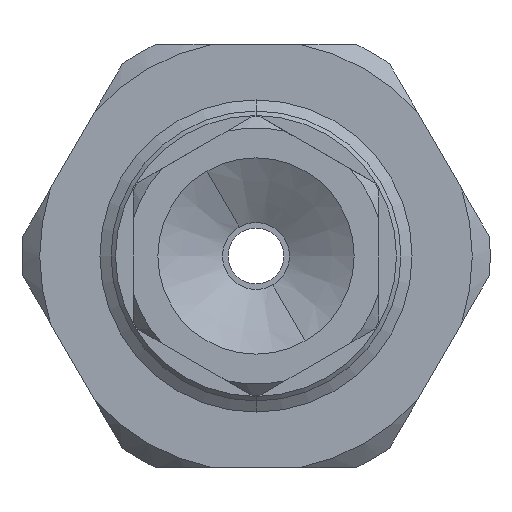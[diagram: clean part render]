
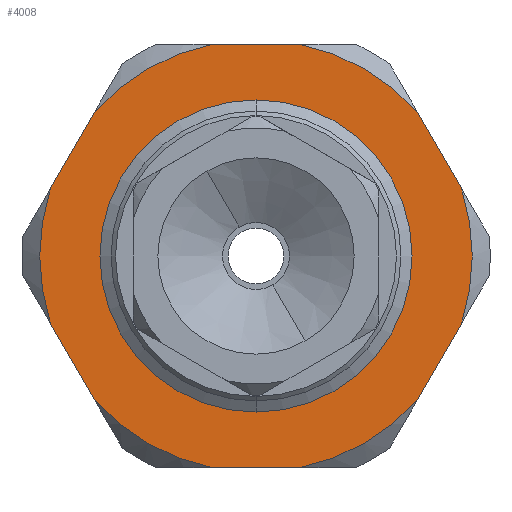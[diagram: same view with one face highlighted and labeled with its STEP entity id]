
A CAD part, front view. The second image highlights one B-rep face of the part: STEP entity #4008.
In plain terms, the highlighted planar face has unit normal (0, -1, 0).
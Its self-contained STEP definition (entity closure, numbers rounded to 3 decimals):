
#565 = CARTESIAN_POINT ( 'NONE',  ( -15.384, -4.677, 60. ) ) ;
#702 = VERTEX_POINT ( 'NONE', #2849 ) ;
#709 = AXIS2_PLACEMENT_3D ( 'NONE', #17434, #6607, #19222 ) ;
#763 = CIRCLE ( 'NONE', #19589, 6.25 ) ;
#968 = CARTESIAN_POINT ( 'NONE',  ( -6.177, -4.677, 56.947 ) ) ;
#1301 = ORIENTED_EDGE ( 'NONE', *, *, #4425, .T. ) ;
#1603 = CARTESIAN_POINT ( 'NONE',  ( -17.343, -4.677, 50.5 ) ) ;
#1724 = VERTEX_POINT ( 'NONE', #17709 ) ;
#1902 = LINE ( 'NONE', #8500, #6173 ) ;
#2000 = VECTOR ( 'NONE', #20996, 1000. ) ;
#2269 = VERTEX_POINT ( 'NONE', #17349 ) ;
#2386 = DIRECTION ( 'NONE',  ( 0., 0., 1. ) ) ;
#2493 = LINE ( 'NONE', #15686, #20558 ) ;
#2577 = CARTESIAN_POINT ( 'NONE',  ( -13.424, -4.677, 50.5 ) ) ;
#2689 = DIRECTION ( 'NONE',  ( 0., -1., 0. ) ) ;
#2849 = CARTESIAN_POINT ( 'NONE',  ( -6.177, -4.677, 63.053 ) ) ;
#2910 = CIRCLE ( 'NONE', #11482, 9.7 ) ;
#2928 = CIRCLE ( 'NONE', #17511, 9.7 ) ;
#3231 = ORIENTED_EDGE ( 'NONE', *, *, #10302, .T. ) ;
#3415 = EDGE_CURVE ( 'NONE', #10879, #17289, #14351, .T. ) ;
#4008 = ADVANCED_FACE ( 'NONE', ( #5549, #15664 ), #20671, .F. ) ;
#4111 = DIRECTION ( 'NONE',  ( -0.5, 0., 0.866 ) ) ;
#4425 = EDGE_CURVE ( 'NONE', #17394, #2269, #2910, .T. ) ;
#4719 = AXIS2_PLACEMENT_3D ( 'NONE', #565, #13194, #2386 ) ;
#4782 = ORIENTED_EDGE ( 'NONE', *, *, #11827, .T. ) ;
#5289 = VERTEX_POINT ( 'NONE', #1603 ) ;
#5347 = DIRECTION ( 'NONE',  ( 0., 1., 0. ) ) ;
#5549 = FACE_BOUND ( 'NONE', #16045, .T. ) ;
#5581 = CARTESIAN_POINT ( 'NONE',  ( -17.343, -4.677, 69.5 ) ) ;
#5843 = VERTEX_POINT ( 'NONE', #5581 ) ;
#5863 = ORIENTED_EDGE ( 'NONE', *, *, #12889, .T. ) ;
#5933 = CARTESIAN_POINT ( 'NONE',  ( -15.384, -4.677, 60. ) ) ;
#6046 = CARTESIAN_POINT ( 'NONE',  ( -24.591, -4.677, 63.053 ) ) ;
#6068 = EDGE_CURVE ( 'NONE', #17289, #20600, #20656, .T. ) ;
#6173 = VECTOR ( 'NONE', #21155, 1000. ) ;
#6508 = ORIENTED_EDGE ( 'NONE', *, *, #15002, .T. ) ;
#6607 = DIRECTION ( 'NONE',  ( 0., 1., 0. ) ) ;
#6820 = CARTESIAN_POINT ( 'NONE',  ( -15.384, -4.677, 53.75 ) ) ;
#6925 = DIRECTION ( 'NONE',  ( 1., 0., 0. ) ) ;
#7290 = DIRECTION ( 'NONE',  ( 0., 1., 0. ) ) ;
#7718 = DIRECTION ( 'NONE',  ( 0., 0., 1. ) ) ;
#8042 = ORIENTED_EDGE ( 'NONE', *, *, #3415, .T. ) ;
#8475 = VERTEX_POINT ( 'NONE', #20722 ) ;
#8500 = CARTESIAN_POINT ( 'NONE',  ( -23.611, -4.677, 55.25 ) ) ;
#8529 = DIRECTION ( 'NONE',  ( 0., -1., 0. ) ) ;
#8583 = DIRECTION ( 'NONE',  ( -0.5, 0., -0.866 ) ) ;
#9102 = CIRCLE ( 'NONE', #21030, 9.7 ) ;
#9556 = EDGE_CURVE ( 'NONE', #20600, #702, #9102, .T. ) ;
#9613 = CARTESIAN_POINT ( 'NONE',  ( -15.384, -4.677, 60. ) ) ;
#9752 = ORIENTED_EDGE ( 'NONE', *, *, #19070, .T. ) ;
#9922 = ORIENTED_EDGE ( 'NONE', *, *, #23365, .T. ) ;
#10184 = CARTESIAN_POINT ( 'NONE',  ( -7.156, -4.677, 55.25 ) ) ;
#10255 = DIRECTION ( 'NONE',  ( -1., 0., 0. ) ) ;
#10286 = DIRECTION ( 'NONE',  ( 0., -1., 0. ) ) ;
#10302 = EDGE_CURVE ( 'NONE', #20512, #5843, #2493, .T. ) ;
#10314 = EDGE_CURVE ( 'NONE', #2269, #12543, #1902, .T. ) ;
#10879 = VERTEX_POINT ( 'NONE', #2577 ) ;
#11418 = DIRECTION ( 'NONE',  ( 0., 0., 1. ) ) ;
#11482 = AXIS2_PLACEMENT_3D ( 'NONE', #13484, #2689, #15314 ) ;
#11810 = CARTESIAN_POINT ( 'NONE',  ( -22.631, -4.677, 53.553 ) ) ;
#11827 = EDGE_CURVE ( 'NONE', #702, #1724, #21933, .T. ) ;
#12230 = CARTESIAN_POINT ( 'NONE',  ( -23.611, -4.677, 64.75 ) ) ;
#12285 = VECTOR ( 'NONE', #4111, 1000. ) ;
#12470 = VERTEX_POINT ( 'NONE', #18895 ) ;
#12543 = VERTEX_POINT ( 'NONE', #11810 ) ;
#12552 = EDGE_LOOP ( 'NONE', ( #14798, #14167, #4782, #5863, #3231, #6508, #18122, #1301, #19540, #21707, #13491, #8042 ) ) ;
#12668 = AXIS2_PLACEMENT_3D ( 'NONE', #21104, #10286, #22943 ) ;
#12679 = VERTEX_POINT ( 'NONE', #6820 ) ;
#12889 = EDGE_CURVE ( 'NONE', #1724, #20512, #23294, .T. ) ;
#13194 = DIRECTION ( 'NONE',  ( 0., -1., 0. ) ) ;
#13484 = CARTESIAN_POINT ( 'NONE',  ( -15.384, -4.677, 60. ) ) ;
#13491 = ORIENTED_EDGE ( 'NONE', *, *, #18496, .T. ) ;
#14167 = ORIENTED_EDGE ( 'NONE', *, *, #9556, .T. ) ;
#14351 = CIRCLE ( 'NONE', #22803, 9.7 ) ;
#14798 = ORIENTED_EDGE ( 'NONE', *, *, #6068, .T. ) ;
#15002 = EDGE_CURVE ( 'NONE', #5843, #8475, #21573, .T. ) ;
#15025 = EDGE_CURVE ( 'NONE', #12543, #5289, #2928, .T. ) ;
#15119 = CARTESIAN_POINT ( 'NONE',  ( -13.424, -4.677, 69.5 ) ) ;
#15314 = DIRECTION ( 'NONE',  ( 0., 0., 1. ) ) ;
#15664 = FACE_OUTER_BOUND ( 'NONE', #12552, .T. ) ;
#15686 = CARTESIAN_POINT ( 'NONE',  ( -15.384, -4.677, 69.5 ) ) ;
#15850 = CIRCLE ( 'NONE', #22254, 6.25 ) ;
#16045 = EDGE_LOOP ( 'NONE', ( #9752, #9922 ) ) ;
#16080 = EDGE_CURVE ( 'NONE', #8475, #17394, #21231, .T. ) ;
#16131 = CARTESIAN_POINT ( 'NONE',  ( -15.384, -4.677, 60. ) ) ;
#17289 = VERTEX_POINT ( 'NONE', #21924 ) ;
#17349 = CARTESIAN_POINT ( 'NONE',  ( -24.591, -4.677, 56.947 ) ) ;
#17394 = VERTEX_POINT ( 'NONE', #6046 ) ;
#17434 = CARTESIAN_POINT ( 'NONE',  ( -15.384, -4.677, 60. ) ) ;
#17511 = AXIS2_PLACEMENT_3D ( 'NONE', #19349, #8529, #21183 ) ;
#17571 = LINE ( 'NONE', #21378, #21824 ) ;
#17709 = CARTESIAN_POINT ( 'NONE',  ( -8.136, -4.677, 66.447 ) ) ;
#17930 = DIRECTION ( 'NONE',  ( 0., 0., 1. ) ) ;
#18075 = CARTESIAN_POINT ( 'NONE',  ( -15.384, -4.677, 60. ) ) ;
#18122 = ORIENTED_EDGE ( 'NONE', *, *, #16080, .T. ) ;
#18496 = EDGE_CURVE ( 'NONE', #5289, #10879, #17571, .T. ) ;
#18510 = DIRECTION ( 'NONE',  ( 0., -1., 0. ) ) ;
#18895 = CARTESIAN_POINT ( 'NONE',  ( -15.384, -4.677, 66.25 ) ) ;
#19070 = EDGE_CURVE ( 'NONE', #12470, #12679, #763, .T. ) ;
#19222 = DIRECTION ( 'NONE',  ( 0., 0., 1. ) ) ;
#19349 = CARTESIAN_POINT ( 'NONE',  ( -15.384, -4.677, 60. ) ) ;
#19540 = ORIENTED_EDGE ( 'NONE', *, *, #10314, .T. ) ;
#19589 = AXIS2_PLACEMENT_3D ( 'NONE', #16131, #5347, #17930 ) ;
#19902 = DIRECTION ( 'NONE',  ( 0., 0., 1. ) ) ;
#20512 = VERTEX_POINT ( 'NONE', #15119 ) ;
#20558 = VECTOR ( 'NONE', #10255, 1000. ) ;
#20600 = VERTEX_POINT ( 'NONE', #968 ) ;
#20656 = LINE ( 'NONE', #10184, #2000 ) ;
#20669 = VECTOR ( 'NONE', #8583, 1000. ) ;
#20671 = PLANE ( 'NONE',  #709 ) ;
#20722 = CARTESIAN_POINT ( 'NONE',  ( -22.631, -4.677, 66.447 ) ) ;
#20996 = DIRECTION ( 'NONE',  ( 0.5, 0., 0.866 ) ) ;
#21030 = AXIS2_PLACEMENT_3D ( 'NONE', #9613, #22261, #11418 ) ;
#21104 = CARTESIAN_POINT ( 'NONE',  ( -15.384, -4.677, 60. ) ) ;
#21155 = DIRECTION ( 'NONE',  ( 0.5, 0., -0.866 ) ) ;
#21183 = DIRECTION ( 'NONE',  ( 0., 0., 1. ) ) ;
#21231 = LINE ( 'NONE', #12230, #20669 ) ;
#21378 = CARTESIAN_POINT ( 'NONE',  ( -15.384, -4.677, 50.5 ) ) ;
#21573 = CIRCLE ( 'NONE', #12668, 9.7 ) ;
#21707 = ORIENTED_EDGE ( 'NONE', *, *, #15025, .T. ) ;
#21824 = VECTOR ( 'NONE', #6925, 1000. ) ;
#21924 = CARTESIAN_POINT ( 'NONE',  ( -8.136, -4.677, 53.553 ) ) ;
#21933 = LINE ( 'NONE', #22207, #12285 ) ;
#22207 = CARTESIAN_POINT ( 'NONE',  ( -7.156, -4.677, 64.75 ) ) ;
#22254 = AXIS2_PLACEMENT_3D ( 'NONE', #18075, #7290, #19902 ) ;
#22261 = DIRECTION ( 'NONE',  ( 0., -1., 0. ) ) ;
#22803 = AXIS2_PLACEMENT_3D ( 'NONE', #5933, #18510, #7718 ) ;
#22943 = DIRECTION ( 'NONE',  ( 0., 0., 1. ) ) ;
#23294 = CIRCLE ( 'NONE', #4719, 9.7 ) ;
#23365 = EDGE_CURVE ( 'NONE', #12679, #12470, #15850, .T. ) ;
